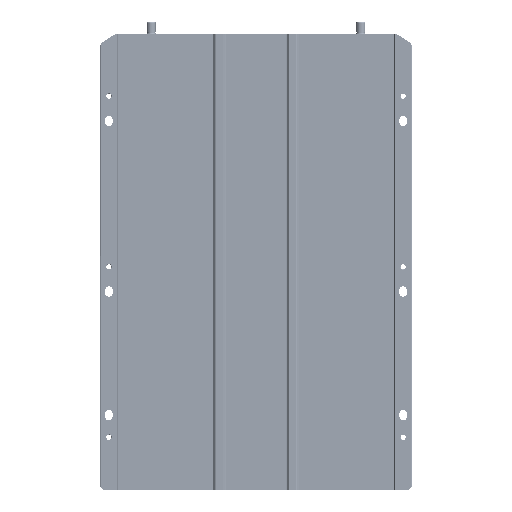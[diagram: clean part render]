
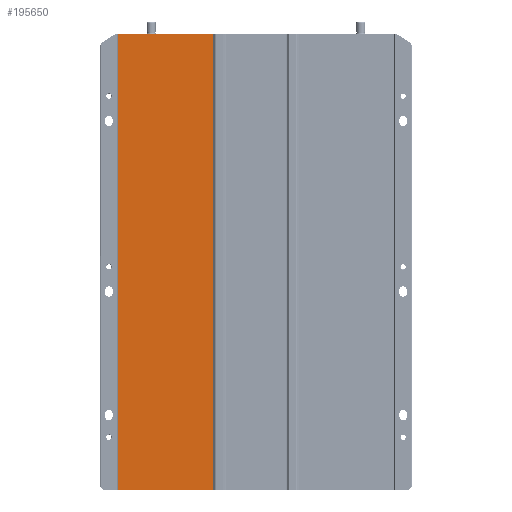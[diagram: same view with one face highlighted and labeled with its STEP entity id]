
A CAD part, front view. The second image highlights one B-rep face of the part: STEP entity #195650.
In plain terms, the highlighted planar face has unit normal (0, -1, 0).
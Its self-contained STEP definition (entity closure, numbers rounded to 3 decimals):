
#8468 = VECTOR ( 'NONE', #123384, 1000. ) ;
#11659 = CARTESIAN_POINT ( 'NONE',  ( 0.677, 5., 461. ) ) ;
#13161 = LINE ( 'NONE', #145058, #148907 ) ;
#13908 = EDGE_LOOP ( 'NONE', ( #142517, #57167, #205974, #122720 ) ) ;
#19056 = VERTEX_POINT ( 'NONE', #87696 ) ;
#21229 = FACE_OUTER_BOUND ( 'NONE', #13908, .T. ) ;
#31076 = VECTOR ( 'NONE', #99140, 1000. ) ;
#34500 = CARTESIAN_POINT ( 'NONE',  ( 0., 5., -461. ) ) ;
#41912 = CARTESIAN_POINT ( 'NONE',  ( 191.586, 5., 461. ) ) ;
#57167 = ORIENTED_EDGE ( 'NONE', *, *, #165910, .T. ) ;
#59364 = CARTESIAN_POINT ( 'NONE',  ( 0., 5., 461. ) ) ;
#68836 = EDGE_CURVE ( 'NONE', #83267, #133267, #172118, .T. ) ;
#77105 = DIRECTION ( 'NONE',  ( 0., 0., 1. ) ) ;
#81234 = LINE ( 'NONE', #11659, #175310 ) ;
#83267 = VERTEX_POINT ( 'NONE', #229566 ) ;
#85245 = EDGE_CURVE ( 'NONE', #19056, #119251, #155264, .T. ) ;
#87696 = CARTESIAN_POINT ( 'NONE',  ( 0.677, 5., -461. ) ) ;
#99140 = DIRECTION ( 'NONE',  ( 1., 0., 0. ) ) ;
#119251 = VERTEX_POINT ( 'NONE', #132041 ) ;
#122720 = ORIENTED_EDGE ( 'NONE', *, *, #127795, .T. ) ;
#123384 = DIRECTION ( 'NONE',  ( 1., 0., 0. ) ) ;
#127795 = EDGE_CURVE ( 'NONE', #119251, #133267, #13161, .T. ) ;
#132041 = CARTESIAN_POINT ( 'NONE',  ( 191.586, 5., -461. ) ) ;
#133267 = VERTEX_POINT ( 'NONE', #41912 ) ;
#142517 = ORIENTED_EDGE ( 'NONE', *, *, #68836, .F. ) ;
#145058 = CARTESIAN_POINT ( 'NONE',  ( 191.586, 5., 461. ) ) ;
#148907 = VECTOR ( 'NONE', #216039, 1000. ) ;
#155264 = LINE ( 'NONE', #34500, #8468 ) ;
#165268 = PLANE ( 'NONE',  #174959 ) ;
#165910 = EDGE_CURVE ( 'NONE', #83267, #19056, #81234, .T. ) ;
#172118 = LINE ( 'NONE', #222800, #31076 ) ;
#174959 = AXIS2_PLACEMENT_3D ( 'NONE', #59364, #183038, #77105 ) ;
#175310 = VECTOR ( 'NONE', #188777, 1000. ) ;
#183038 = DIRECTION ( 'NONE',  ( 0., 1., 0. ) ) ;
#188777 = DIRECTION ( 'NONE',  ( 0., 0., -1. ) ) ;
#195650 = ADVANCED_FACE ( 'NONE', ( #21229 ), #165268, .F. ) ;
#205974 = ORIENTED_EDGE ( 'NONE', *, *, #85245, .T. ) ;
#216039 = DIRECTION ( 'NONE',  ( 0., 0., 1. ) ) ;
#222800 = CARTESIAN_POINT ( 'NONE',  ( 0., 5., 461. ) ) ;
#229566 = CARTESIAN_POINT ( 'NONE',  ( 0.677, 5., 461. ) ) ;
